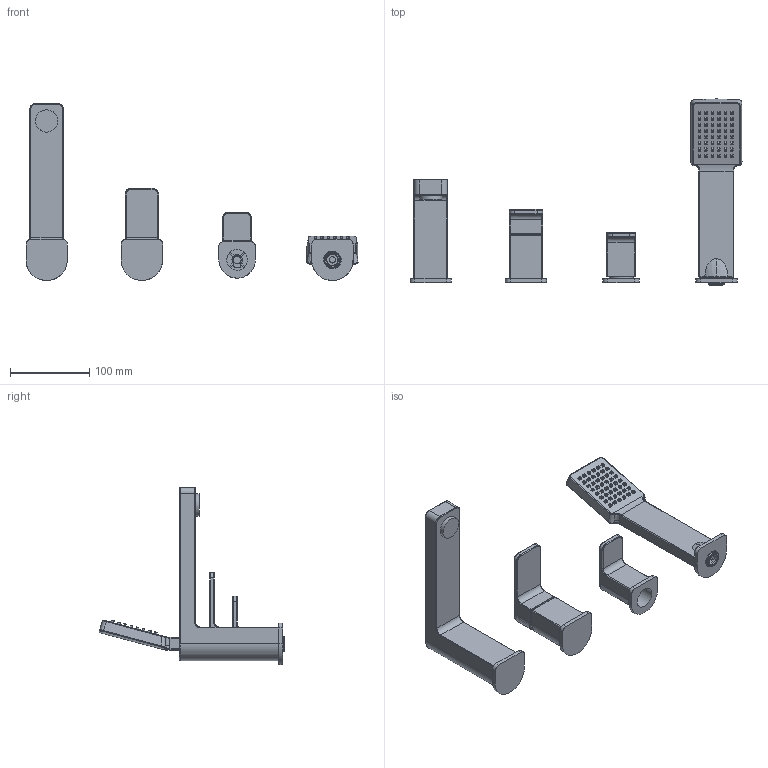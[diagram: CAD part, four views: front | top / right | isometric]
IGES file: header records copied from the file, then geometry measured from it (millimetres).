
Global section: file name: 3ea5bfca-4b9c-45a3-9590-a049b3d1f403; native system: unknown; preprocessor: unknown; author: unknown; organization: unknown; date: 20191128.080642; units: millimetre
Bounding box: 418.23 x 234.29 x 223 mm (x, y, z)
Volume: 767093.6 mm3; surface area: 155735.1 mm2
Topology: 10 solids, 10 shells, 1182 faces, 2754 edges, 1498 vertices
Faces by surface type: bspline 1182
